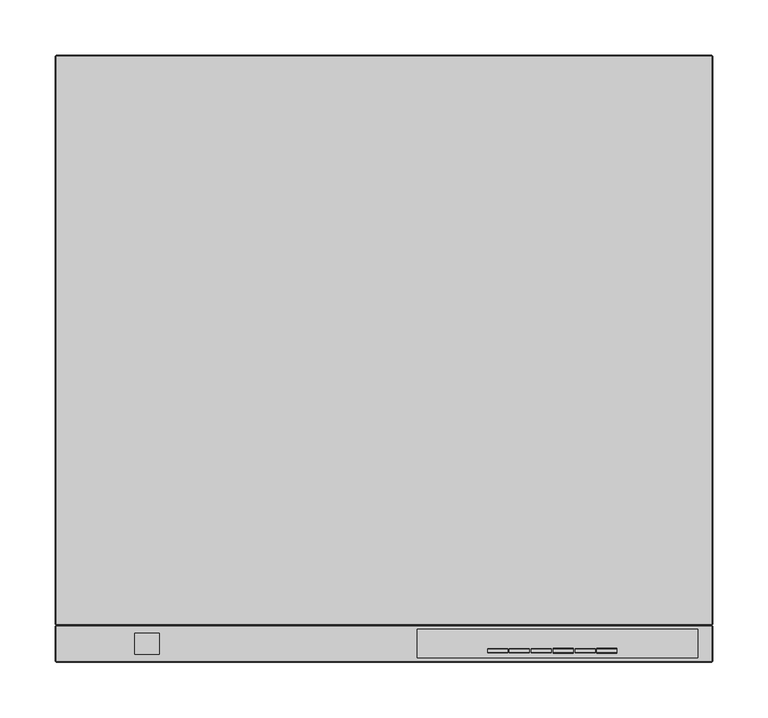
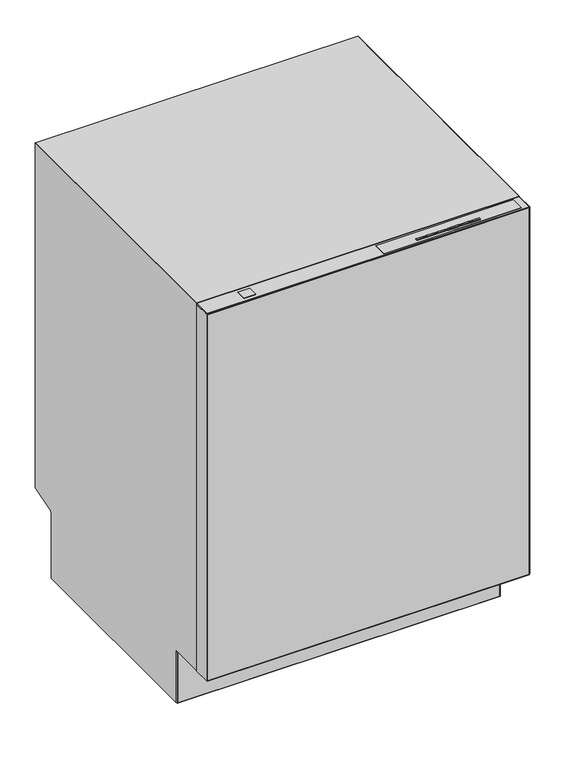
"""IFC4 building model written with IfcOpenShell, lengths in millimetres: proxy geometry, Kitchen_Appliances_Zanussi_Zanussi-FI-60-Dishwasher-Sliding-Door : Name - (ZDLN1511 911539251 Denmark)."""

import ifcopenshell
import ifcopenshell.guid

model = None  # the IFC model being written
_history = None  # IfcOwnerHistory: only IFC2X3 demands one
_inside = {}  # id of a spatial element -> (the spatial element, [elements in it])
_under = {}  # id of a project, library or spatial element -> (it, [spatial elements below it])
_declared = {}  # id of a project -> (the project, [libraries it declares])
_typed = {}  # id of a type object -> (the type object, [elements of that type])
_made_of = {}  # id of a material, layer set ... -> (it, [elements and type objects made of it])


def new_model(schema):
    """Start an empty IFC model of exactly this schema.

    Asked for "IFC4X3", IfcOpenShell would pick the latest addendum, in which some entities
    have other attributes; the version numbers below select the first issue.
    IFC2X3 requires an IfcOwnerHistory on every rooted entity: one is made here for all.
    """
    global model, _history
    if schema == "IFC4X3":
        model = ifcopenshell.file(schema_version=(4, 3, 0, 0))
    else:
        model = ifcopenshell.file(schema=schema)
    _inside.clear()
    _under.clear()
    _declared.clear()
    _typed.clear()
    _made_of.clear()
    _history = None
    if model.schema == "IFC2X3":
        org = make("IfcOrganization", Name="unknown")
        user = make(
            "IfcPersonAndOrganization",
            ThePerson=make("IfcPerson", FamilyName="unknown"),
            TheOrganization=org,
        )
        app = make(
            "IfcApplication",
            ApplicationDeveloper=org,
            Version="unknown",
            ApplicationFullName="unknown",
            ApplicationIdentifier="unknown",
        )
        _history = make(
            "IfcOwnerHistory",
            OwningUser=user,
            OwningApplication=app,
            ChangeAction="ADDED",
            CreationDate=0,
        )
    return model


def make(cls, **values):
    """One entity of the class cls with the attributes given. An attribute that is None is left unset."""
    return model.create_entity(
        cls, **{name: value for name, value in values.items() if value is not None}
    )


def rooted(cls, **values):
    """An entity with a GlobalId (a new one), such as an element, a storey or a relation."""
    return make(cls, GlobalId=ifcopenshell.guid.new(), OwnerHistory=_history, **values)


def si_unit(unit_type, name, prefix=None):
    """IfcSIUnit, for example si_unit("LENGTHUNIT", "METRE", prefix="MILLI")."""
    return make("IfcSIUnit", UnitType=unit_type, Prefix=prefix, Name=name)


def assignment(units):
    """IfcUnitAssignment: the units of a project."""
    return None if units is None else make("IfcUnitAssignment", Units=units)


def point(xyz):
    """IfcCartesianPoint."""
    return None if xyz is None else make("IfcCartesianPoint", Coordinates=xyz)


def direction(xyz):
    """IfcDirection."""
    return None if xyz is None else make("IfcDirection", DirectionRatios=xyz)


def frame(location, z_axis=None, x_axis=None):
    """IfcAxis2Placement3D, a coordinate frame: its origin and axes. An axis left out is left unset."""
    return make(
        "IfcAxis2Placement3D",
        Location=point(location),
        Axis=direction(z_axis),
        RefDirection=direction(x_axis),
    )


def origin():
    """The frame at (0, 0, 0) with its axes left unset."""
    return frame((0.0, 0.0, 0.0))


def place(relative_to, where):
    """IfcLocalPlacement: puts the frame where relative to a parent placement (None: the world)."""
    return make(
        "IfcLocalPlacement", PlacementRelTo=relative_to, RelativePlacement=where
    )


def context(
    kind, dimensions, precision=None, world=None, true_north=None, identifier=None
):
    """IfcGeometricRepresentationContext, for example the 3D "Model" context."""
    return make(
        "IfcGeometricRepresentationContext",
        ContextIdentifier=identifier,
        ContextType=kind,
        CoordinateSpaceDimension=dimensions,
        Precision=precision,
        WorldCoordinateSystem=world,
        TrueNorth=true_north,
    )


def project(units=None, contexts=None):
    """IfcProject with its units and contexts."""
    return rooted(
        "IfcProject",
        Name="project",
        RepresentationContexts=contexts,
        UnitsInContext=assignment(units),
    )


def spatial(cls, under=None, at=None, **own):
    """A site, building, storey or space (cls), placed at a placement, below another one or the project."""
    s = rooted(cls, ObjectPlacement=at, **own)
    if under is not None:
        _under.setdefault(under.id(), (under, []))[1].append(s)
    return s


def polyline(points):
    """IfcPolyline through the points."""
    return make("IfcPolyline", Points=[point(p) for p in points])


def outline(outer, holes=None, kind="AREA"):
    """IfcArbitraryClosedProfileDef: a profile drawn as a closed curve; with holes, ...WithVoids."""
    if holes is None:
        return make("IfcArbitraryClosedProfileDef", ProfileType=kind, OuterCurve=outer)
    return make(
        "IfcArbitraryProfileDefWithVoids",
        ProfileType=kind,
        OuterCurve=outer,
        InnerCurves=holes,
    )


def extrude(swept, where, along, depth):
    """IfcExtrudedAreaSolid: the profile swept, set in the frame where, extruded along a direction by depth."""
    return make(
        "IfcExtrudedAreaSolid",
        SweptArea=swept,
        Position=where,
        ExtrudedDirection=direction(along),
        Depth=depth,
    )


def faces_of(points, faces, orient=None, outer=None):
    """IfcFace entities. A face is a list of loops; a loop is a list of indices into points, from 0.

    orient and outer hold one flag for each loop. By default every Orientation is true, the
    first loop of a face is its IfcFaceOuterBound and the others are IfcFaceBound.
    """
    made = []
    for i, loops in enumerate(faces):
        bounds = []
        for j, loop in enumerate(loops):
            is_outer = j == 0 if outer is None else outer[i][j]
            bounds.append(
                make(
                    "IfcFaceOuterBound" if is_outer else "IfcFaceBound",
                    Bound=make("IfcPolyLoop", Polygon=[points[k] for k in loop]),
                    Orientation=True if orient is None else orient[i][j],
                )
            )
        made.append(make("IfcFace", Bounds=bounds))
    return made


def faceted_brep(points, faces, orient=None, outer=None, voids=None):
    """IfcFacetedBrep: a solid bounded by flat faces; with voids (closed shells), ...WithVoids."""
    shared = [point(p) for p in points]
    hull = make("IfcClosedShell", CfsFaces=faces_of(shared, faces, orient, outer))
    if voids is None:
        return make("IfcFacetedBrep", Outer=hull)
    return make(
        "IfcFacetedBrepWithVoids",
        Outer=hull,
        Voids=[
            make(cls, CfsFaces=faces_of(shared, fs, o, b)) for cls, fs, o, b in voids
        ],
    )


def shape(context_of_items, identifier, shape_type, items):
    """IfcShapeRepresentation: the items that make up one representation, for example the "Body"."""
    return make(
        "IfcShapeRepresentation",
        ContextOfItems=context_of_items,
        RepresentationIdentifier=identifier,
        RepresentationType=shape_type,
        Items=items,
    )


def source(mapping_origin, context_of_items, identifier, shape_type, items):
    """IfcRepresentationMap: a shape defined once, which mapped items show again and again."""
    return make(
        "IfcRepresentationMap",
        MappingOrigin=mapping_origin,
        MappedRepresentation=shape(context_of_items, identifier, shape_type, items),
    )


def transform(
    local_origin,
    x_axis=None,
    y_axis=None,
    z_axis=None,
    scale=None,
    scale2=None,
    scale3=None,
    uniform=True,
):
    """IfcCartesianTransformationOperator3D, or its non-uniform kind. x_axis, y_axis, z_axis: its Axis1, 2, 3."""
    if uniform:
        return make(
            "IfcCartesianTransformationOperator3D",
            Axis1=direction(x_axis),
            Axis2=direction(y_axis),
            LocalOrigin=point(local_origin),
            Scale=scale,
            Axis3=direction(z_axis),
        )
    return make(
        "IfcCartesianTransformationOperator3DnonUniform",
        Axis1=direction(x_axis),
        Axis2=direction(y_axis),
        LocalOrigin=point(local_origin),
        Scale=scale,
        Axis3=direction(z_axis),
        Scale2=scale2,
        Scale3=scale3,
    )


def mapped(mapping_source, mapping_target):
    """IfcMappedItem: shows the shape of a source again, moved by a transform."""
    return make(
        "IfcMappedItem", MappingSource=mapping_source, MappingTarget=mapping_target
    )


def made_of(thing, what):
    """Note that an element or type object is made of a material, layer set ...; save() writes the relation."""
    if what is not None:
        _made_of.setdefault(what.id(), (what, []))[1].append(thing)
    return thing


def element(
    cls,
    number,
    at=None,
    inside=None,
    cuts=None,
    type_object=None,
    material=None,
    context=None,
    identifier="Body",
    shape_type=None,
    held_by="IfcProductDefinitionShape",
    body=None,
    shapes=None,
    **own,
):
    """One element of the class cls, such as IfcWall. Its Tag is "e" and its number.

    at: its placement. inside: the storey or other place that contains it. cuts: it is an
    opening in that element (IfcRelVoidsElement). A single representation is given by context,
    identifier, shape_type and body (its items); several are given by shapes. held_by: the class
    of the entity that holds the representations. save() writes the other relations.
    """
    e = rooted(cls, Tag="e%d" % number, ObjectPlacement=at, **own)
    if body is not None:
        shapes = [shape(context, identifier, shape_type, body)]
    if shapes is not None:
        e.Representation = make(held_by, Representations=shapes)
    if inside is not None:
        _inside.setdefault(inside.id(), (inside, []))[1].append(e)
    if cuts is not None:
        rooted(
            "IfcRelVoidsElement", RelatingBuildingElement=cuts, RelatedOpeningElement=e
        )
    if type_object is not None:
        _typed.setdefault(type_object.id(), (type_object, []))[1].append(e)
    return made_of(e, material)


def aggregate(whole, parts):
    """IfcRelAggregates: a whole, such as a stair, and the parts it consists of."""
    return rooted("IfcRelAggregates", RelatingObject=whole, RelatedObjects=parts)


def save(model, path):
    """Write the relations noted so far, then the file.

    IfcRelAggregates (storeys below a building ...), IfcRelContainedInSpatialStructure (elements
    in a storey), IfcRelDefinesByType, IfcRelAssociatesMaterial and IfcRelDeclares: one each for
    every whole, place, type object, material and project.
    """
    for whole, parts in _under.values():
        aggregate(whole, parts)
    for where, things in _inside.values():
        rooted(
            "IfcRelContainedInSpatialStructure",
            RelatedElements=things,
            RelatingStructure=where,
        )
    for kind, things in _typed.values():
        rooted("IfcRelDefinesByType", RelatedObjects=things, RelatingType=kind)
    for what, things in _made_of.values():
        rooted("IfcRelAssociatesMaterial", RelatedObjects=things, RelatingMaterial=what)
    for by, libraries in _declared.values():
        rooted("IfcRelDeclares", RelatingContext=by, RelatedDefinitions=libraries)
    model.write(path)


def specialty_equipment_08ab1db2(model_context):
    return source(origin(), model_context, "Body", "SolidModel", [
        extrude(outline(polyline([(-226.2306864, -267.8380911), (-226.2306864, -248.5320465), (-203.6988622, -248.5320465), (-203.6988622, -267.8380911), (-226.2306864, -267.8380911)])), frame((0.0, 0.0, 816.7786287), z_axis=(0.0, 0.0, 1.0), x_axis=(1.0, 0.0, 0.0)), (0.0, 0.0, 1.0), 1.8190913),
        extrude(outline(polyline([(-262.3701445, 818.5404053), (-262.3701445, 817.3367766), (-266.7194945, 817.3367766), (-266.7194945, 818.5404053), (-265.7194945, 819.5404053), (-263.3701445, 819.5404053), (-262.3701445, 818.5404053)])), frame((153.200741, 0.0, 0.0), z_axis=(1.0, 0.0, 0.0), x_axis=(0.0, 1.0, 0.0)), (0.0, 0.0, 1.0), 18.148252),
        extrude(outline(polyline([(-262.3701445, 818.5404053), (-262.3701445, 817.3367766), (-266.7194945, 817.3367766), (-266.7194945, 818.5404053), (-265.7194945, 819.5404053), (-263.3701445, 819.5404053), (-262.3701445, 818.5404053)])), frame((192.6758303, 0.0, 0.0), z_axis=(1.0, 0.0, 0.0), x_axis=(0.0, 1.0, 0.0)), (0.0, 0.0, 1.0), 18.148252),
        extrude(outline(polyline([(29.8570538, -270.9789734), (29.8570538, -245.2443695), (284.1807556, -245.2443695), (284.1807556, -270.9789734), (29.8570538, -270.9789734)])), frame((0.0, 0.0, 816.6590363), z_axis=(0.0, 0.0, 1.0), x_axis=(1.0, 0.0, 0.0)), (0.0, 0.0, 1.0), 1.4194336),
        faceted_brep([(297.6663886, -175.4697549, 99.3915381), (297.6663886, -175.4697549, 0.0445488), (297.6663886, 223.1193111, 0.0445488), (297.6663886, 223.1193111, 128.3598493), (297.6663886, 224.1193111, 129.3598493), (297.6663886, 225.1193111, 130.3598493), (297.6663886, 274.0002136, 145.8638991), (297.6663886, 274.0002136, 817.0840946), (297.6663886, -240.4574058, 817.0840946), (297.6663886, -240.4574058, 101.3915381), (297.6663886, -177.4697549, 101.3915381), (297.6663886, -176.4697549, 100.3915381), (-298.1048378, -175.4697549, 0.0445488), (-298.1048378, 223.1193111, 0.0445488), (-297.1048378, 224.1193111, 0.0445488), (296.6663886, 224.1193111, 0.0445488), (296.6663886, -176.4697549, 0.0445488), (-297.1048378, -176.4697549, 0.0445488), (-297.1048378, -176.4697549, 99.3915381), (296.6663886, -176.4697549, 99.3915381), (-297.1048378, -241.4574058, 101.3915381), (296.6663886, -241.4574058, 101.3915381), (296.6663886, -241.4574058, 817.0840946), (-297.1048378, -241.4574058, 817.0840946), (296.6663886, 275.0002136, 145.8638991), (-297.1048378, 275.0002136, 145.8638991), (-297.1048378, 275.0002136, 817.0840946), (296.6663886, 275.0002136, 817.0840946), (-298.1048378, 274.0002136, 817.0840946), (-298.1048378, 274.0002136, 145.8638991), (-298.1048378, 225.1193111, 130.3598493), (-298.1048378, 224.1193111, 129.3598493), (-298.1048378, 223.1193111, 128.3598493), (-298.1048378, -175.4697549, 99.3915381), (-298.1048378, -176.4697549, 100.3915381), (-298.1048378, -177.4697549, 101.3915381), (-298.1048378, -240.4574058, 101.3915381), (-298.1048378, -240.4574058, 817.0840946), (296.6663886, 274.0002136, 818.0840946), (-297.1048378, 274.0002136, 818.0840946), (-297.1048378, -240.4574058, 818.0840946), (296.6663886, -240.4574058, 818.0840946), (-297.1048378, 224.1193111, 128.3598493), (296.6663886, 224.1193111, 128.3598493), (296.6663886, 274.0002136, 144.8638991), (296.6663886, 225.1193111, 129.3598493), (-297.1048378, 225.1193111, 129.3598493), (-297.1048378, 274.0002136, 144.8638991), (296.6663886, -240.4574058, 100.3915381), (-297.1048378, -240.4574058, 100.3915381), (-297.1048378, -177.4697549, 100.3915381), (296.6663886, -177.4697549, 100.3915381)], [[[0, 1, 2, 3, 4, 5, 6, 7, 8, 9, 10, 11]], [[12, 13, 14, 15, 2, 1, 16, 17]], [[18, 17, 16, 19]], [[20, 21, 22, 23]], [[24, 25, 26, 27]], [[28, 29, 30, 31, 32, 13, 12, 33, 34, 35, 36, 37]], [[38, 39, 40, 41]], [[42, 43, 15, 14]], [[44, 45, 46, 47]], [[48, 49, 50, 51]], [[23, 22, 41, 40]], [[8, 7, 38, 41]], [[27, 26, 39, 38]], [[28, 37, 40, 39]], [[2, 15, 43, 3]], [[5, 45, 44, 6]], [[24, 44, 47, 25]], [[32, 42, 14, 13]], [[29, 47, 46, 30]], [[7, 6, 24, 27]], [[26, 25, 29, 28]], [[42, 46, 45, 43]], [[20, 49, 48, 21]], [[9, 48, 51, 10]], [[0, 19, 16, 1]], [[35, 50, 49, 36]], [[12, 17, 18, 33]], [[20, 23, 37, 36]], [[22, 21, 9, 8]], [[50, 18, 19, 51]], [[40, 37, 23]], [[22, 8, 41]], [[7, 27, 38]], [[26, 28, 39]], [[3, 43, 45, 5, 4]], [[6, 44, 24]], [[25, 47, 29]], [[42, 32, 31, 30, 46]], [[49, 20, 36]], [[21, 48, 9]], [[10, 51, 19, 0, 11]], [[50, 35, 34, 33, 18]]]),
        faceted_brep([(296.6662055, -241.4573447, 816.0174872), (296.6662055, -241.4573447, 101.3891425), (-297.1048378, -241.4573447, 101.3891425), (-297.1048378, -241.4573447, 816.0174872), (-298.1048378, -242.4573447, 816.0174872), (-298.1048378, -274.0002136, 816.0174872), (-297.1048378, -275.0002136, 816.0174872), (296.6662055, -275.0002136, 816.0174872), (297.6662055, -274.0002136, 816.0174872), (297.6662055, -242.4573447, 816.0174872), (296.6662055, -275.0002136, 101.3891425), (-297.1048378, -275.0002136, 101.3891425), (297.6662055, -242.4573447, 101.3891425), (297.6662055, -274.0002136, 101.3891425), (-298.1048378, -274.0002136, 101.3891425), (-298.1048378, -242.4573447, 101.3891425), (-297.1048378, -242.4573447, 100.3891425), (296.6662055, -242.4573447, 100.3891425), (296.6662055, -274.0002136, 100.3891425), (-297.1048378, -274.0002136, 100.3891425)], [[[0, 1, 2, 3]], [[4, 5, 6, 7, 8, 9, 0, 3]], [[10, 7, 6, 11]], [[12, 9, 8, 13]], [[14, 5, 4, 15]], [[16, 17, 18, 19]], [[10, 11, 19, 18]], [[12, 13, 18, 17]], [[2, 1, 17, 16]], [[14, 15, 16, 19]], [[11, 6, 5, 14]], [[7, 10, 13, 8]], [[9, 12, 1, 0]], [[3, 2, 15, 4]], [[11, 14, 19]], [[18, 13, 10]], [[17, 1, 12]], [[16, 15, 2]]]),
        extrude(outline(polyline([(-262.3701445, 818.5404053), (-262.3701445, 817.3367766), (-266.7194945, 817.3367766), (-266.7194945, 818.5404053), (-265.7194945, 819.5404053), (-263.3701445, 819.5404053), (-262.3701445, 818.5404053)])), frame((113.3823899, 0.0, 0.0), z_axis=(1.0, 0.0, 0.0), x_axis=(0.0, 1.0, 0.0)), (0.0, 0.0, 1.0), 18.148252),
        extrude(outline(polyline([(-262.3701445, 818.5404053), (-262.3701445, 817.3367766), (-266.7194945, 817.3367766), (-266.7194945, 818.5404053), (-265.7194945, 819.5404053), (-263.3701445, 819.5404053), (-262.3701445, 818.5404053)])), frame((172.9382857, 0.0, 0.0), z_axis=(1.0, 0.0, 0.0), x_axis=(0.0, 1.0, 0.0)), (0.0, 0.0, 1.0), 18.148252),
        extrude(outline(polyline([(-262.3701445, 818.5404053), (-262.3701445, 817.3367766), (-266.7194945, 817.3367766), (-266.7194945, 818.5404053), (-265.7194945, 819.5404053), (-263.3701445, 819.5404053), (-262.3701445, 818.5404053)])), frame((133.2915655, 0.0, 0.0), z_axis=(1.0, 0.0, 0.0), x_axis=(0.0, 1.0, 0.0)), (0.0, 0.0, 1.0), 18.148252),
        extrude(outline(polyline([(-262.3701445, 818.5404053), (-262.3701445, 817.3367766), (-266.7194945, 817.3367766), (-266.7194945, 818.5404053), (-265.7194945, 819.5404053), (-263.3701445, 819.5404053), (-262.3701445, 818.5404053)])), frame((93.6350663, 0.0, 0.0), z_axis=(1.0, 0.0, 0.0), x_axis=(0.0, 1.0, 0.0)), (0.0, 0.0, 1.0), 18.148252),
        faceted_brep([(296.6662055, -241.4573447, 817.0837894), (296.6662055, -241.4573447, 816.0175211), (-297.1048378, -241.4573447, 816.0175211), (-297.1048378, -241.4573447, 817.0837894), (297.6662055, -242.4573447, 816.0175211), (297.6662055, -274.0002136, 816.0175211), (296.6662055, -275.0002136, 816.0175211), (-297.1048378, -275.0002136, 816.0175211), (-298.1048378, -274.0002136, 816.0175211), (-298.1048378, -242.4573447, 816.0175211), (-297.1048378, -275.0002136, 817.0837894), (296.6662055, -275.0002136, 817.0837894), (297.6662055, -274.0002136, 817.0837894), (297.6662055, -242.4573447, 817.0837894), (-298.1048378, -242.4573447, 817.0837894), (-298.1048378, -274.0002136, 817.0837894), (296.6662055, -242.4573447, 818.0837894), (-297.1048378, -242.4573447, 818.0837894), (-297.1048378, -274.0002136, 818.0837894), (296.6662055, -274.0002136, 818.0837894), (-203.6988622, -267.8380911, 818.0837894), (-226.2306864, -267.8380911, 818.0837894), (-226.2306864, -248.5320465, 818.0837894), (-203.6988622, -248.5320465, 818.0837894), (284.1807556, -270.9789734, 818.0837894), (29.8570538, -270.9789734, 818.0837894), (29.8570538, -245.2443695, 818.0837894), (284.1807556, -245.2443695, 818.0837894), (-203.6988622, -267.8380911, 816.7786287), (-226.2306864, -267.8380911, 816.7786287), (-203.6988622, -248.5320465, 816.7786287), (-226.2306864, -248.5320465, 816.7786287), (284.1807556, -270.9789734, 816.824262), (29.8570538, -270.9789734, 816.824262), (284.1807556, -245.2443695, 816.824262), (29.8570538, -245.2443695, 816.824262)], [[[0, 1, 2, 3]], [[2, 1, 4, 5, 6, 7, 8, 9]], [[10, 7, 6, 11]], [[12, 5, 4, 13]], [[14, 9, 8, 15]], [[16, 17, 18, 19], [20, 21, 22, 23], [24, 25, 26, 27]], [[10, 11, 19, 18]], [[12, 13, 16, 19]], [[0, 3, 17, 16]], [[14, 15, 18, 17]], [[7, 10, 15, 8]], [[11, 6, 5, 12]], [[13, 4, 1, 0]], [[3, 2, 9, 14]], [[18, 15, 10]], [[11, 12, 19]], [[13, 0, 16]], [[3, 14, 17]], [[20, 28, 29, 21]], [[23, 30, 28, 20]], [[22, 31, 30, 23]], [[21, 29, 31, 22]], [[29, 28, 30, 31]], [[24, 32, 33, 25]], [[27, 34, 32, 24]], [[26, 35, 34, 27]], [[25, 33, 35, 26]], [[33, 32, 34, 35]]]),
        faceted_brep([(297.6824017, -179.4827917, 99.7905308), (297.6824017, -179.4827917, 0.2991391), (297.6824017, -176.6384096, 0.2991391), (297.6824017, -176.6384096, 99.7905308), (-298.0979695, -176.6384096, 0.2991391), (-298.0979695, -176.6384096, 99.7905308), (-298.0979695, -179.4827917, 0.2991391), (-298.0979695, -179.4827917, 99.7905308), (-297.0979695, -180.4827917, 98.7905308), (-297.0979695, -180.4827917, 1.2991391), (296.6824017, -180.4827917, 1.2991391), (296.6824017, -180.4827917, 98.7905308)], [[[0, 1, 2, 3]], [[2, 4, 5, 3]], [[6, 7, 5, 4]], [[1, 6, 4, 2]], [[7, 0, 3, 5]], [[8, 9, 10, 11]], [[10, 9, 6, 1]], [[8, 11, 0, 7]], [[9, 8, 7, 6]], [[11, 10, 1, 0]]]),
    ])


if __name__ == "__main__":
    model = new_model("IFC4")
    model_context = context("Model", 3, world=origin())
    ifc_project = project(units=[si_unit("LENGTHUNIT", "METRE", prefix="MILLI")], contexts=[model_context])
    site = spatial("IfcSite", under=ifc_project)
    building = spatial("IfcBuilding", under=site)
    placement = place(None, origin())
    specialty_equipment_shape = specialty_equipment_08ab1db2(model_context)
    element("IfcBuildingElementProxy", 1, Name="Kitchen_Appliances_Zanussi_Zanussi-FI-60-Dishwasher-Sliding-Door : Name - (ZDLN1511 911539251 Denmark)", ObjectType="Kitchen_Appliances_Zanussi_Zanussi-FI-60-Dishwasher-Sliding-Door : Name - (ZDLN1511 911539251 Denmark)", at=placement, inside=building, context=model_context, shape_type="MappedRepresentation", body=[
        mapped(specialty_equipment_shape, transform((0.0, 0.0, 0.0), x_axis=(1.0, 0.0, 0.0), y_axis=(0.0, 1.0, 0.0), z_axis=(0.0, 0.0, 1.0))),
    ])
    save(model, "model.ifc")
